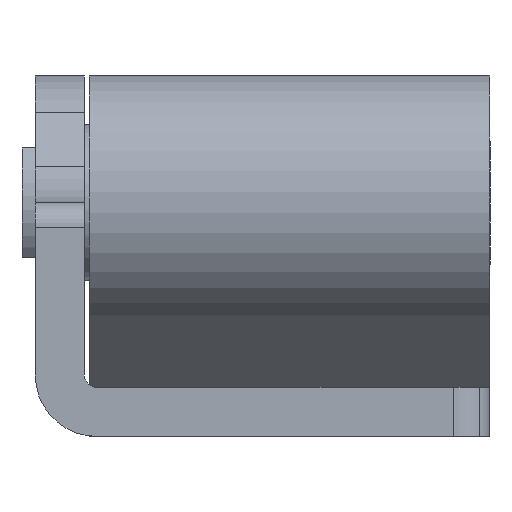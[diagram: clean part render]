
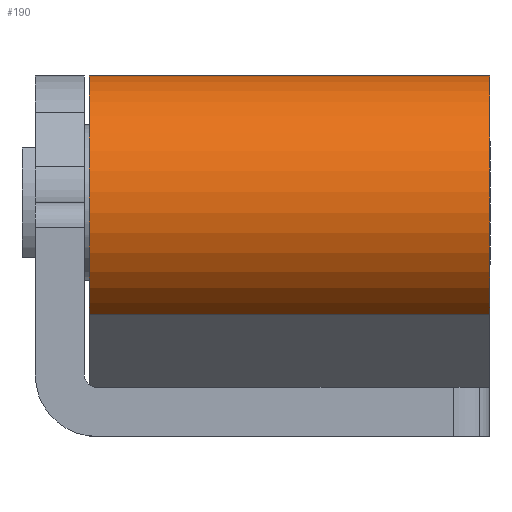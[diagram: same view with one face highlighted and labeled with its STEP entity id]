
A CAD part, front view. The second image highlights one B-rep face of the part: STEP entity #190.
In plain terms, the highlighted cylindrical face has radius 5.182 mm (diameter 10.363 mm), a partial arc.
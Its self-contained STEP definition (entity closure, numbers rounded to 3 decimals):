
#190=ADVANCED_FACE('',(#389),#390,.T.);
#389=FACE_OUTER_BOUND('',#598,.T.);
#390=CYLINDRICAL_SURFACE('',#599,5.182);
#598=EDGE_LOOP('',(#1062,#1063,#1064,#1065));
#599=AXIS2_PLACEMENT_3D('',#1066,#1067,#1068);
#1062=ORIENTED_EDGE('',*,*,#1368,.T.);
#1063=ORIENTED_EDGE('',*,*,#1399,.T.);
#1064=ORIENTED_EDGE('',*,*,#1338,.T.);
#1065=ORIENTED_EDGE('',*,*,#1352,.T.);
#1066=CARTESIAN_POINT('',(177.81,105.8,20.575));
#1067=DIRECTION('',(1.0,0.0,0.));
#1068=DIRECTION('',(0.,0.0,-1.0));
#1338=EDGE_CURVE('',#1651,#1649,#1652,.T.);
#1352=EDGE_CURVE('',#1649,#1669,#1671,.T.);
#1368=EDGE_CURVE('',#1669,#1688,#1689,.T.);
#1399=EDGE_CURVE('',#1688,#1651,#1721,.T.);
#1649=VERTEX_POINT('',#2028);
#1651=VERTEX_POINT('',#2031);
#1652=LINE('',#2032,#2033);
#1669=VERTEX_POINT('',#2054);
#1671=CIRCLE('',#2056,5.182);
#1688=VERTEX_POINT('',#2082);
#1689=LINE('',#2083,#2084);
#1721=CIRCLE('',#2128,5.182);
#2028=CARTESIAN_POINT('',(194.11,103.292,16.041));
#2031=CARTESIAN_POINT('',(177.81,103.292,16.041));
#2032=CARTESIAN_POINT('',(177.81,103.292,16.041));
#2033=VECTOR('',#2372,10.0);
#2054=CARTESIAN_POINT('',(194.11,105.8,25.757));
#2056=AXIS2_PLACEMENT_3D('',#2395,#2396,#2397);
#2082=CARTESIAN_POINT('',(177.81,105.8,25.757));
#2083=CARTESIAN_POINT('',(177.81,105.8,25.757));
#2084=VECTOR('',#2410,1.0);
#2128=AXIS2_PLACEMENT_3D('',#2438,#2439,#2440);
#2372=DIRECTION('',(1.0,0.0,0.));
#2395=CARTESIAN_POINT('',(194.11,105.8,20.575));
#2396=DIRECTION('',(-1.0,-0.0,0.));
#2397=DIRECTION('',(0.,0.0,-1.0));
#2410=DIRECTION('',(-1.0,-0.0,0.));
#2438=CARTESIAN_POINT('',(177.81,105.8,20.575));
#2439=DIRECTION('',(1.0,0.0,0.));
#2440=DIRECTION('',(0.,0.0,-1.0));
